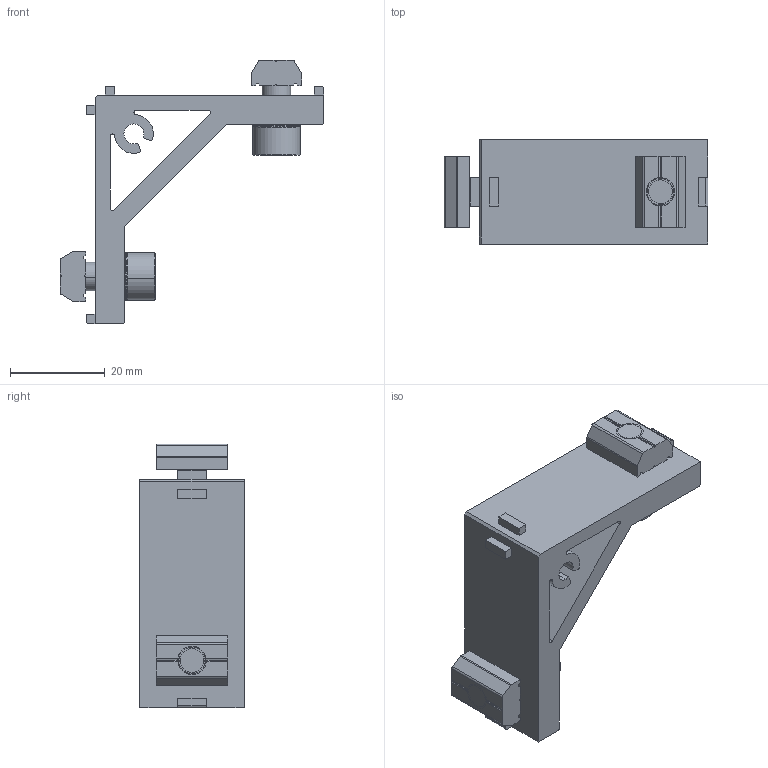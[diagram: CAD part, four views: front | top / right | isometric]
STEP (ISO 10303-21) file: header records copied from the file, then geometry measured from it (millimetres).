
FILE_DESCRIPTION (( 'STEP AP214' ), '1' );
FILE_NAME ('SMBD3-4040T.STEP', '2022-12-13T06:50:45', ( '' ), ( '' ), 'SwSTEP 2.0', 'SolidWorks 2018', '' );
FILE_SCHEMA (( 'AUTOMOTIVE_DESIGN' ));
Length unit declared in the file: millimetre
Products named in the file (5): SMBD3-4040T; PTC-M6L14; PTS-M6; SMBD3-4040; PTN-M6
Assembly tree (7 placements, depth 2):
  SMBD3-4040T
    SMBD3-4040
    PTN-M6  x2
    PTS-M6  x2
    PTC-M6L14  x2
Bounding box: 55.55 x 22 x 55.55 mm (x, y, z)
Volume: 15733.7 mm3; surface area: 10319.5 mm2
Topology: 7 solids, 7 shells, 520 faces, 1512 edges, 1004 vertices
Faces by surface type: plane 421, cylinder 87, cone 12
Entity records: 9787 total; most frequent: CARTESIAN_POINT 1760, DIRECTION 1663, ORIENTED_EDGE 1662, EDGE_CURVE 831, AXIS2_PLACEMENT_3D 559, VERTEX_POINT 552, LINE 545, VECTOR 545
